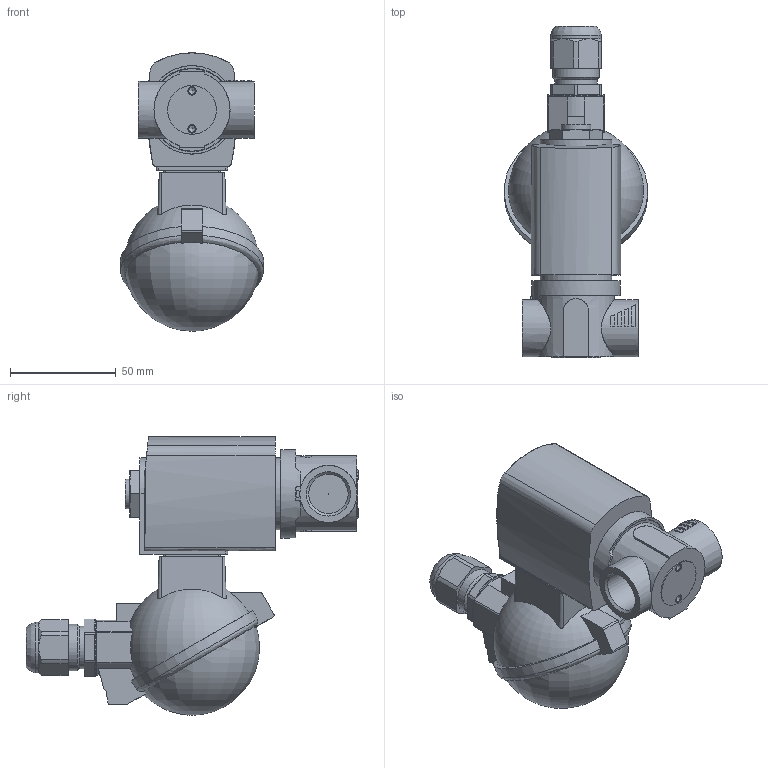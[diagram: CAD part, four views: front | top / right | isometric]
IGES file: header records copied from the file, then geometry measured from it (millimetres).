
Start section: Data from Parasolid IGES Translator 26.0.171, Copyright(c) 2006 Siemens PLM Software. All Rights Reserved.
Global section: file name: 6027-A-6-FKM___FKM-VA-G_1_2-42-024___UC.igs; native system: By Siemens PLM Incorporated; preprocessor: XPlus GENERIC/IGES 26.0.171; author: Noname; organization: Noname; date: 20241001.101433; units: millimetre
Bounding box: 67.86 x 157.1 x 131.7 mm (x, y, z)
Surface area: 51127.7 mm2 (no closed solid volume)
Topology: 0 solids, 0 shells, 220 faces, 1155 edges, 1127 vertices
Faces by surface type: extrusion 121, revolution 99
